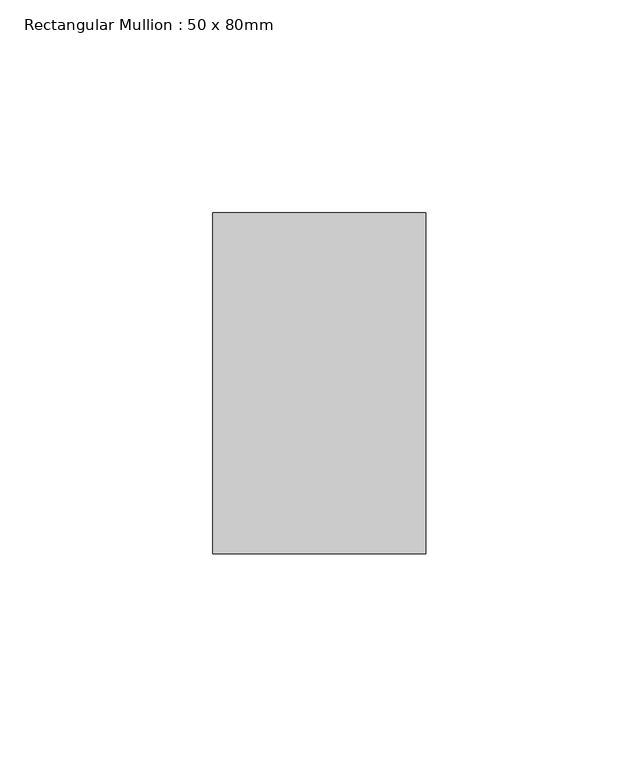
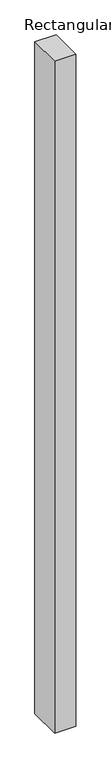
"""IFC4 building model written with IfcOpenShell, lengths in millimetres: member geometry, Rectangular Mullion : 50 x 80mm."""

from ifc_helpers import new_model, si_unit, frame, origin, place, context, project, spatial, polyline, outline, extrude, source, transform, mapped, element, save


def rectangular_mullion_50_x_80mm_b02faac2(model_context):
    return source(origin(), model_context, "Body", "SweptSolid", [
        extrude(outline(polyline([(0.0, 25.0), (0.0, -55.0), (-50.0, -55.0), (-50.0, 25.0), (0.0, 25.0)])), frame((0.0, 0.0, -1670.0), z_axis=(0.0, 0.0, 1.0), x_axis=(1.0, 0.0, 0.0)), (0.0, 0.0, 1.0), 1670.0),
    ])


if __name__ == "__main__":
    model = new_model("IFC4")
    model_context = context("Model", 3, world=origin())
    ifc_project = project(units=[si_unit("LENGTHUNIT", "METRE", prefix="MILLI")], contexts=[model_context])
    site = spatial("IfcSite", under=ifc_project)
    building = spatial("IfcBuilding", under=site)
    placement = place(None, origin())
    rectangular_mullion_50_x_80mm_shape = rectangular_mullion_50_x_80mm_b02faac2(model_context)
    element("IfcMember", 1, ObjectType="Rectangular Mullion : 50 x 80mm", at=placement, inside=building, context=model_context, shape_type="MappedRepresentation", body=[
        mapped(rectangular_mullion_50_x_80mm_shape, transform((0.0, 0.0, 0.0), x_axis=(1.0, 0.0, 0.0), y_axis=(0.0, 1.0, 0.0), z_axis=(0.0, 0.0, 1.0))),
    ])
    save(model, "model.ifc")
